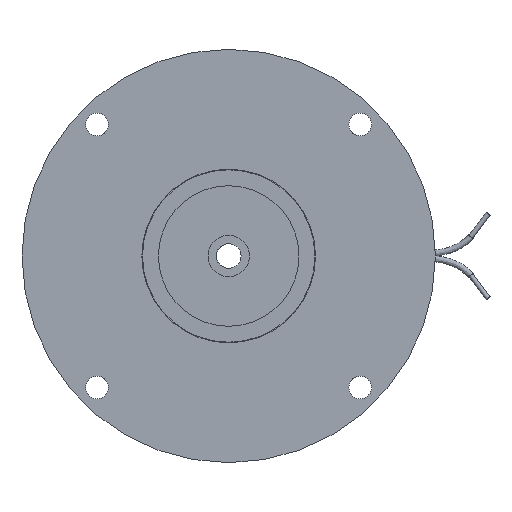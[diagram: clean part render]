
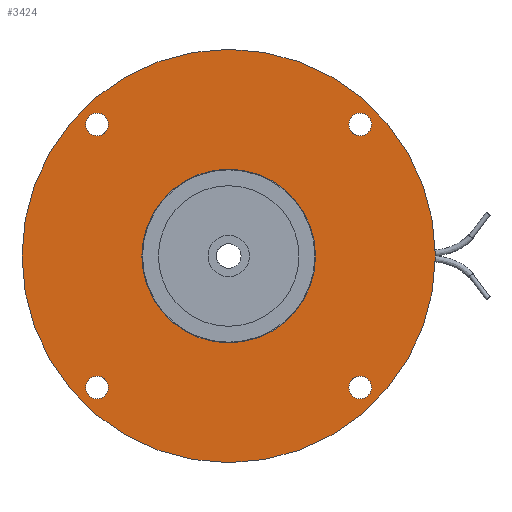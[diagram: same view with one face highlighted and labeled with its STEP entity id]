
A CAD part, left-side view. The second image highlights one B-rep face of the part: STEP entity #3424.
In plain terms, the highlighted planar face has unit normal (-1, 0, 0).
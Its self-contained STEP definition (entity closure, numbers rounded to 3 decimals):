
#126=FACE_BOUND('',#1015,.T.);
#127=FACE_BOUND('',#1016,.T.);
#128=FACE_BOUND('',#1017,.T.);
#129=FACE_BOUND('',#1018,.T.);
#130=FACE_BOUND('',#1019,.T.);
#726=FACE_OUTER_BOUND('',#1014,.T.);
#1014=EDGE_LOOP('',(#2667));
#1015=EDGE_LOOP('',(#2668));
#1016=EDGE_LOOP('',(#2669));
#1017=EDGE_LOOP('',(#2670));
#1018=EDGE_LOOP('',(#2671));
#1019=EDGE_LOOP('',(#2672));
#1350=CIRCLE('',#3793,2.75);
#1352=CIRCLE('',#3796,2.75);
#1354=CIRCLE('',#3799,2.75);
#1356=CIRCLE('',#3802,2.75);
#1362=CIRCLE('',#3812,21.);
#1364=CIRCLE('',#3815,50.);
#1603=VERTEX_POINT('',#5904);
#1605=VERTEX_POINT('',#5909);
#1607=VERTEX_POINT('',#5914);
#1609=VERTEX_POINT('',#5919);
#1615=VERTEX_POINT('',#5935);
#1617=VERTEX_POINT('',#5940);
#1986=EDGE_CURVE('',#1603,#1603,#1350,.T.);
#1988=EDGE_CURVE('',#1605,#1605,#1352,.T.);
#1990=EDGE_CURVE('',#1607,#1607,#1354,.T.);
#1992=EDGE_CURVE('',#1609,#1609,#1356,.T.);
#1998=EDGE_CURVE('',#1615,#1615,#1362,.T.);
#2000=EDGE_CURVE('',#1617,#1617,#1364,.T.);
#2667=ORIENTED_EDGE('',*,*,#2000,.F.);
#2668=ORIENTED_EDGE('',*,*,#1986,.T.);
#2669=ORIENTED_EDGE('',*,*,#1988,.T.);
#2670=ORIENTED_EDGE('',*,*,#1990,.T.);
#2671=ORIENTED_EDGE('',*,*,#1992,.T.);
#2672=ORIENTED_EDGE('',*,*,#1998,.T.);
#2997=PLANE('',#3822);
#3424=ADVANCED_FACE('',(#726,#126,#127,#128,#129,#130),#2997,.T.);
#3793=AXIS2_PLACEMENT_3D('',#5905,#4614,#4615);
#3796=AXIS2_PLACEMENT_3D('',#5910,#4620,#4621);
#3799=AXIS2_PLACEMENT_3D('',#5915,#4626,#4627);
#3802=AXIS2_PLACEMENT_3D('',#5920,#4632,#4633);
#3812=AXIS2_PLACEMENT_3D('',#5936,#4652,#4653);
#3815=AXIS2_PLACEMENT_3D('',#5941,#4658,#4659);
#3822=AXIS2_PLACEMENT_3D('',#5950,#4672,#4673);
#4614=DIRECTION('center_axis',(1.,0.,0.));
#4615=DIRECTION('ref_axis',(0.,0.,-1.));
#4620=DIRECTION('center_axis',(1.,0.,0.));
#4621=DIRECTION('ref_axis',(0.,0.,-1.));
#4626=DIRECTION('center_axis',(1.,0.,0.));
#4627=DIRECTION('ref_axis',(0.,0.,-1.));
#4632=DIRECTION('center_axis',(1.,0.,0.));
#4633=DIRECTION('ref_axis',(0.,0.,-1.));
#4652=DIRECTION('center_axis',(1.,0.,0.));
#4653=DIRECTION('ref_axis',(0.,1.,0.));
#4658=DIRECTION('center_axis',(1.,0.,0.));
#4659=DIRECTION('ref_axis',(0.,1.,0.));
#4672=DIRECTION('center_axis',(-1.,0.,0.));
#4673=DIRECTION('ref_axis',(0.,0.,1.));
#5904=CARTESIAN_POINT('',(0.,31.82,-29.07));
#5905=CARTESIAN_POINT('Origin',(0.,31.82,-31.82));
#5909=CARTESIAN_POINT('',(0.,-31.82,-29.07));
#5910=CARTESIAN_POINT('Origin',(0.,-31.82,-31.82));
#5914=CARTESIAN_POINT('',(0.,-31.82,34.57));
#5915=CARTESIAN_POINT('Origin',(0.,-31.82,31.82));
#5919=CARTESIAN_POINT('',(0.,31.82,34.57));
#5920=CARTESIAN_POINT('Origin',(0.,31.82,31.82));
#5935=CARTESIAN_POINT('',(0.,21.,0.));
#5936=CARTESIAN_POINT('Origin',(0.,0.,0.));
#5940=CARTESIAN_POINT('',(0.,50.,0.));
#5941=CARTESIAN_POINT('Origin',(0.,0.,0.));
#5950=CARTESIAN_POINT('Origin',(0.,35.5,0.));
